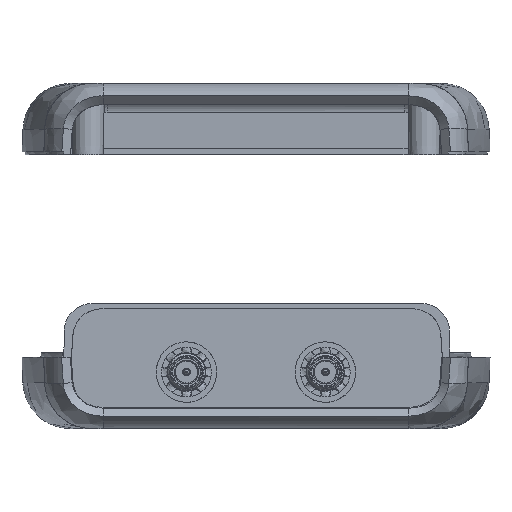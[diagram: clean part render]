
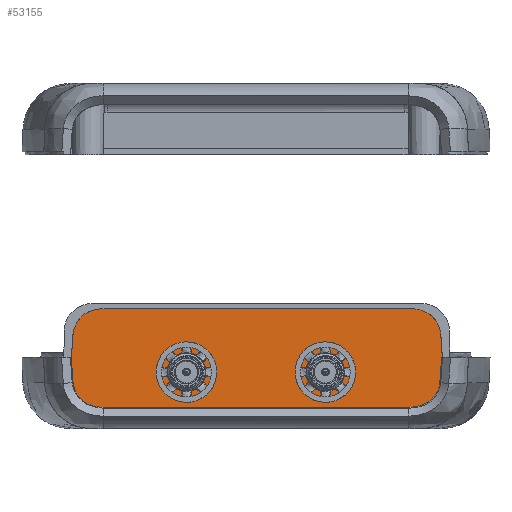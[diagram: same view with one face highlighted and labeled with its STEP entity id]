
A CAD part, front view. The second image highlights one B-rep face of the part: STEP entity #53155.
In plain terms, the highlighted planar face has unit normal (0, -1, 0) as drawn and (0, 0, 1) by its records, which use the part's own axes.
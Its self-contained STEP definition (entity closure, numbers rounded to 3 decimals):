
#147 = B_SPLINE_CURVE_WITH_KNOTS ( 'NONE', 3,
 ( #17485, #31890, #18074, #50513 ),
 .UNSPECIFIED., .F., .F.,
 ( 4, 4 ),
 ( 0., 0.007 ),
 .UNSPECIFIED. ) ;
#426 = EDGE_LOOP ( 'NONE', ( #59702, #4902, #53314, #48041, #39361, #53678, #39593, #55843, #1985, #56509 ) ) ;
#653 = CARTESIAN_POINT ( 'NONE',  ( -14.549, 8.405, 1.875 ) ) ;
#727 = DIRECTION ( 'NONE',  ( 1., 0., 0. ) ) ;
#1613 = CARTESIAN_POINT ( 'NONE',  ( -45.575, -4.265, 1.875 ) ) ;
#1723 = CARTESIAN_POINT ( 'NONE',  ( -40.353, 8.405, 1.875 ) ) ;
#1906 = VERTEX_POINT ( 'NONE', #28304 ) ;
#1985 = ORIENTED_EDGE ( 'NONE', *, *, #28372, .T. ) ;
#2124 = CIRCLE ( 'NONE', #39615, 3.3 ) ;
#2326 = CARTESIAN_POINT ( 'NONE',  ( -26.435, -2.323, 1.875 ) ) ;
#4046 = DIRECTION ( 'NONE',  ( -0.068, 0.998, 0. ) ) ;
#4713 = ORIENTED_EDGE ( 'NONE', *, *, #48280, .F. ) ;
#4902 = ORIENTED_EDGE ( 'NONE', *, *, #58415, .T. ) ;
#5651 = CARTESIAN_POINT ( 'NONE',  ( -26.435, -2.323, 1.875 ) ) ;
#5854 = VERTEX_POINT ( 'NONE', #46885 ) ;
#6432 = CARTESIAN_POINT ( 'NONE',  ( 14.195, 8.319, 1.875 ) ) ;
#6977 = DIRECTION ( 'NONE',  ( 1., 0., 0. ) ) ;
#7932 = VERTEX_POINT ( 'NONE', #40572 ) ;
#7992 = ORIENTED_EDGE ( 'NONE', *, *, #26315, .F. ) ;
#8041 = VECTOR ( 'NONE', #58085, 1000. ) ;
#8577 = VERTEX_POINT ( 'NONE', #27741 ) ;
#9785 = VERTEX_POINT ( 'NONE', #1723 ) ;
#10322 = DIRECTION ( 'NONE',  ( 1., 0., 0. ) ) ;
#11405 = LINE ( 'NONE', #653, #36091 ) ;
#11516 = VERTEX_POINT ( 'NONE', #1613 ) ;
#11779 = VERTEX_POINT ( 'NONE', #12787 ) ;
#12787 = CARTESIAN_POINT ( 'NONE',  ( -6.293, -2.323, 1.875 ) ) ;
#13077 = DIRECTION ( 'NONE',  ( 0., 0., 1. ) ) ;
#14399 = VERTEX_POINT ( 'NONE', #26821 ) ;
#14495 = CARTESIAN_POINT ( 'NONE',  ( -45.575, -4.265, 1.875 ) ) ;
#15004 = AXIS2_PLACEMENT_3D ( 'NONE', #2326, #34760, #6977 ) ;
#15365 = B_SPLINE_CURVE_WITH_KNOTS ( 'NONE', 3,
 ( #57113, #43326, #6432, #38879 ),
 .UNSPECIFIED., .F., .F.,
 ( 4, 4 ),
 ( 0., 0.007 ),
 .UNSPECIFIED. ) ;
#16624 = LINE ( 'NONE', #49890, #52114 ) ;
#16715 = CARTESIAN_POINT ( 'NONE',  ( -45.864, 0., 1.875 ) ) ;
#17354 = CARTESIAN_POINT ( 'NONE',  ( -23.135, -2.323, 1.875 ) ) ;
#17467 = DIRECTION ( 'NONE',  ( -0.068, -0.998, 0. ) ) ;
#17485 = CARTESIAN_POINT ( 'NONE',  ( -40.353, 8.405, 1.875 ) ) ;
#18074 = CARTESIAN_POINT ( 'NONE',  ( -45.034, 6.942, 1.875 ) ) ;
#18424 = B_SPLINE_CURVE_WITH_KNOTS ( 'NONE', 3,
 ( #20996, #48747, #25691, #58090 ),
 .UNSPECIFIED., .F., .F.,
 ( 4, 4 ),
 ( 0., 0.007 ),
 .UNSPECIFIED. ) ;
#19494 = DIRECTION ( 'NONE',  ( 0., 0., 1. ) ) ;
#19614 = AXIS2_PLACEMENT_3D ( 'NONE', #5651, #38104, #10322 ) ;
#19731 = ORIENTED_EDGE ( 'NONE', *, *, #36505, .F. ) ;
#19732 = EDGE_CURVE ( 'NONE', #23222, #1906, #51424, .T. ) ;
#19786 = VERTEX_POINT ( 'NONE', #30066 ) ;
#20027 = EDGE_CURVE ( 'NONE', #14399, #46886, #16624, .T. ) ;
#20311 = CARTESIAN_POINT ( 'NONE',  ( -14.549, -8.405, 1.875 ) ) ;
#20996 = CARTESIAN_POINT ( 'NONE',  ( 11.256, -8.405, 1.875 ) ) ;
#23222 = VERTEX_POINT ( 'NONE', #46887 ) ;
#23847 = CARTESIAN_POINT ( 'NONE',  ( -40.353, -8.405, 1.875 ) ) ;
#23970 = EDGE_LOOP ( 'NONE', ( #19731, #4713 ) ) ;
#25691 = CARTESIAN_POINT ( 'NONE',  ( 15.937, -6.941, 1.875 ) ) ;
#26315 = EDGE_CURVE ( 'NONE', #19786, #11779, #43446, .T. ) ;
#26821 = CARTESIAN_POINT ( 'NONE',  ( -45.575, 4.265, 1.875 ) ) ;
#27023 = EDGE_CURVE ( 'NONE', #1906, #54128, #18424, .T. ) ;
#27741 = CARTESIAN_POINT ( 'NONE',  ( 11.256, 8.405, 1.875 ) ) ;
#28304 = CARTESIAN_POINT ( 'NONE',  ( 11.256, -8.405, 1.875 ) ) ;
#28372 = EDGE_CURVE ( 'NONE', #11516, #23222, #33233, .T. ) ;
#28530 = EDGE_CURVE ( 'NONE', #46886, #11516, #43548, .T. ) ;
#28535 = DIRECTION ( 'NONE',  ( 0., 0., 1. ) ) ;
#28650 = PLANE ( 'NONE',  #53201 ) ;
#29035 = EDGE_LOOP ( 'NONE', ( #7992, #37324 ) ) ;
#29191 = EDGE_CURVE ( 'NONE', #9785, #14399, #147, .T. ) ;
#29859 = EDGE_CURVE ( 'NONE', #7932, #5854, #52819, .T. ) ;
#30066 = CARTESIAN_POINT ( 'NONE',  ( 0.307, -2.323, 1.875 ) ) ;
#31053 = CARTESIAN_POINT ( 'NONE',  ( -45.864, 0., 1.875 ) ) ;
#31300 = EDGE_CURVE ( 'NONE', #5854, #8577, #15365, .T. ) ;
#31890 = CARTESIAN_POINT ( 'NONE',  ( -43.295, 8.32, 1.875 ) ) ;
#33110 = DIRECTION ( 'NONE',  ( -1., 0., 0. ) ) ;
#33233 = B_SPLINE_CURVE_WITH_KNOTS ( 'NONE', 3,
 ( #14495, #42263, #51571, #23847 ),
 .UNSPECIFIED., .F., .F.,
 ( 4, 4 ),
 ( 0., 0.007 ),
 .UNSPECIFIED. ) ;
#34760 = DIRECTION ( 'NONE',  ( 0., 0., 1. ) ) ;
#35055 = VERTEX_POINT ( 'NONE', #17354 ) ;
#35244 = EDGE_CURVE ( 'NONE', #8577, #9785, #11405, .T. ) ;
#36091 = VECTOR ( 'NONE', #33110, 1000. ) ;
#36211 = DIRECTION ( 'NONE',  ( 0.068, 0.998, 0. ) ) ;
#36505 = EDGE_CURVE ( 'NONE', #35055, #48083, #45344, .T. ) ;
#37317 = CARTESIAN_POINT ( 'NONE',  ( 16.479, -4.265, 1.875 ) ) ;
#37324 = ORIENTED_EDGE ( 'NONE', *, *, #53346, .F. ) ;
#38104 = DIRECTION ( 'NONE',  ( 0., 0., 1. ) ) ;
#38879 = CARTESIAN_POINT ( 'NONE',  ( 11.256, 8.405, 1.875 ) ) ;
#39361 = ORIENTED_EDGE ( 'NONE', *, *, #35244, .T. ) ;
#39593 = ORIENTED_EDGE ( 'NONE', *, *, #20027, .T. ) ;
#39615 = AXIS2_PLACEMENT_3D ( 'NONE', #56277, #28535, #727 ) ;
#40572 = CARTESIAN_POINT ( 'NONE',  ( 16.768, 0., 1.875 ) ) ;
#40831 = CARTESIAN_POINT ( 'NONE',  ( -2.993, -2.323, 1.875 ) ) ;
#41315 = FACE_OUTER_BOUND ( 'NONE', #426, .T. ) ;
#41735 = CIRCLE ( 'NONE', #19614, 3.3 ) ;
#41782 = VECTOR ( 'NONE', #36211, 1000. ) ;
#42263 = CARTESIAN_POINT ( 'NONE',  ( -45.033, -6.942, 1.875 ) ) ;
#43326 = CARTESIAN_POINT ( 'NONE',  ( 15.933, 6.94, 1.875 ) ) ;
#43446 = CIRCLE ( 'NONE', #48395, 3.3 ) ;
#43548 = LINE ( 'NONE', #16715, #8041 ) ;
#45344 = CIRCLE ( 'NONE', #15004, 3.3 ) ;
#45508 = DIRECTION ( 'NONE',  ( 1., 0., 0. ) ) ;
#45663 = VECTOR ( 'NONE', #47860, 1000. ) ;
#46885 = CARTESIAN_POINT ( 'NONE',  ( 16.479, 4.265, 1.875 ) ) ;
#46886 = VERTEX_POINT ( 'NONE', #31053 ) ;
#46887 = CARTESIAN_POINT ( 'NONE',  ( -40.353, -8.405, 1.875 ) ) ;
#47238 = CARTESIAN_POINT ( 'NONE',  ( -14.549, 0., 1.875 ) ) ;
#47860 = DIRECTION ( 'NONE',  ( 1., 0., 0. ) ) ;
#48041 = ORIENTED_EDGE ( 'NONE', *, *, #31300, .T. ) ;
#48083 = VERTEX_POINT ( 'NONE', #58233 ) ;
#48280 = EDGE_CURVE ( 'NONE', #48083, #35055, #41735, .T. ) ;
#48395 = AXIS2_PLACEMENT_3D ( 'NONE', #40831, #13077, #45508 ) ;
#48747 = CARTESIAN_POINT ( 'NONE',  ( 14.199, -8.32, 1.875 ) ) ;
#49890 = CARTESIAN_POINT ( 'NONE',  ( -45.575, 4.265, 1.875 ) ) ;
#50513 = CARTESIAN_POINT ( 'NONE',  ( -45.575, 4.265, 1.875 ) ) ;
#51319 = VECTOR ( 'NONE', #4046, 1000. ) ;
#51424 = LINE ( 'NONE', #20311, #45663 ) ;
#51571 = CARTESIAN_POINT ( 'NONE',  ( -43.295, -8.32, 1.875 ) ) ;
#51915 = DIRECTION ( 'NONE',  ( 0., -1., 0. ) ) ;
#52114 = VECTOR ( 'NONE', #17467, 1000. ) ;
#52819 = LINE ( 'NONE', #59777, #51319 ) ;
#53155 = ADVANCED_FACE ( 'NONE', ( #55106, #53646, #41315 ), #28650, .T. ) ;
#53201 = AXIS2_PLACEMENT_3D ( 'NONE', #47238, #19494, #51915 ) ;
#53314 = ORIENTED_EDGE ( 'NONE', *, *, #29859, .T. ) ;
#53346 = EDGE_CURVE ( 'NONE', #11779, #19786, #2124, .T. ) ;
#53646 = FACE_BOUND ( 'NONE', #23970, .T. ) ;
#53678 = ORIENTED_EDGE ( 'NONE', *, *, #29191, .T. ) ;
#54128 = VERTEX_POINT ( 'NONE', #37317 ) ;
#54149 = LINE ( 'NONE', #59301, #41782 ) ;
#55106 = FACE_BOUND ( 'NONE', #29035, .T. ) ;
#55843 = ORIENTED_EDGE ( 'NONE', *, *, #28530, .T. ) ;
#56277 = CARTESIAN_POINT ( 'NONE',  ( -2.993, -2.323, 1.875 ) ) ;
#56509 = ORIENTED_EDGE ( 'NONE', *, *, #19732, .T. ) ;
#57113 = CARTESIAN_POINT ( 'NONE',  ( 16.479, 4.265, 1.875 ) ) ;
#58085 = DIRECTION ( 'NONE',  ( 0.068, -0.998, 0. ) ) ;
#58090 = CARTESIAN_POINT ( 'NONE',  ( 16.479, -4.265, 1.875 ) ) ;
#58233 = CARTESIAN_POINT ( 'NONE',  ( -29.735, -2.323, 1.875 ) ) ;
#58415 = EDGE_CURVE ( 'NONE', #54128, #7932, #54149, .T. ) ;
#59301 = CARTESIAN_POINT ( 'NONE',  ( 16.479, -4.265, 1.875 ) ) ;
#59702 = ORIENTED_EDGE ( 'NONE', *, *, #27023, .T. ) ;
#59777 = CARTESIAN_POINT ( 'NONE',  ( 16.768, 0., 1.875 ) ) ;
